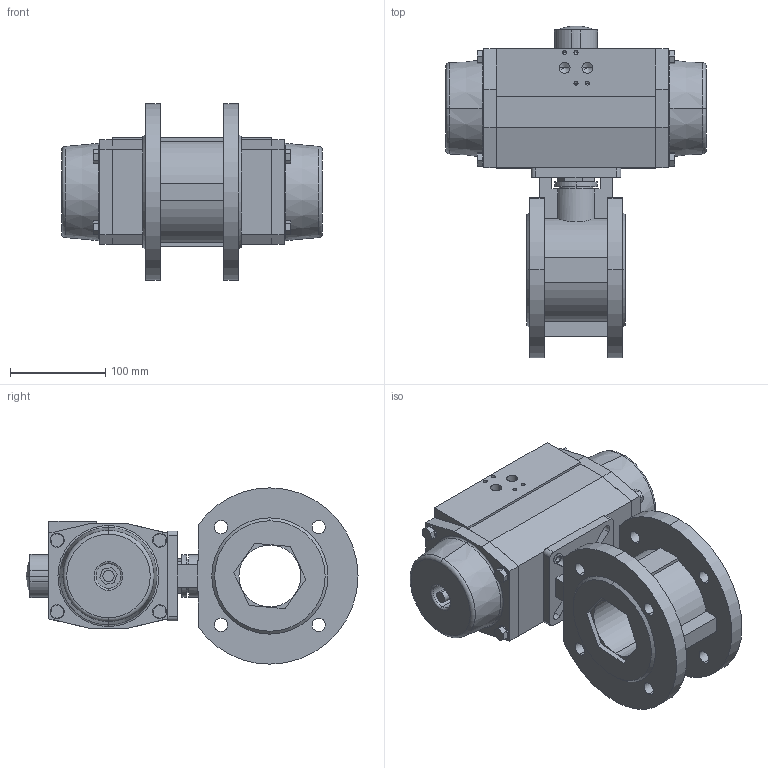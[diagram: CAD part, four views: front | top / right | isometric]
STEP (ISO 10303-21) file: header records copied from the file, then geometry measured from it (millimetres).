
FILE_DESCRIPTION (( 'STEP AP214' ), '1' );
FILE_NAME ('S15D DN65 AP4.STEP', '2012-04-24T08:15:31', ( 'Jan' ), ( '' ), 'SwSTEP 2.0', 'SolidWorks 2011', '' );
FILE_SCHEMA (( 'AUTOMOTIVE_DESIGN' ));
Length unit declared in the file: millimetre
Products named in the file (3): AP4_Default<As Machined>; S15D KK DN65 PN16; S15D DN65 AP4
Assembly tree (2 placements, depth 2):
  S15D DN65 AP4
    AP4_Default<As Machined>
    S15D KK DN65 PN16
Bounding box: 273.5 x 348.51 x 185 mm (x, y, z)
Volume: 4484264.8 mm3; surface area: 344515 mm2
Topology: 13 solids, 13 shells, 458 faces, 1133 edges, 704 vertices
Faces by surface type: plane 268, cylinder 130, cone 46, torus 12, sphere 2
Entity records: 15924 total; most frequent: DIRECTION 2375, CARTESIAN_POINT 2333, ORIENTED_EDGE 2190, EDGE_CURVE 1095, AXIS2_PLACEMENT_3D 820, LINE 735, VECTOR 735, VERTEX_POINT 704
